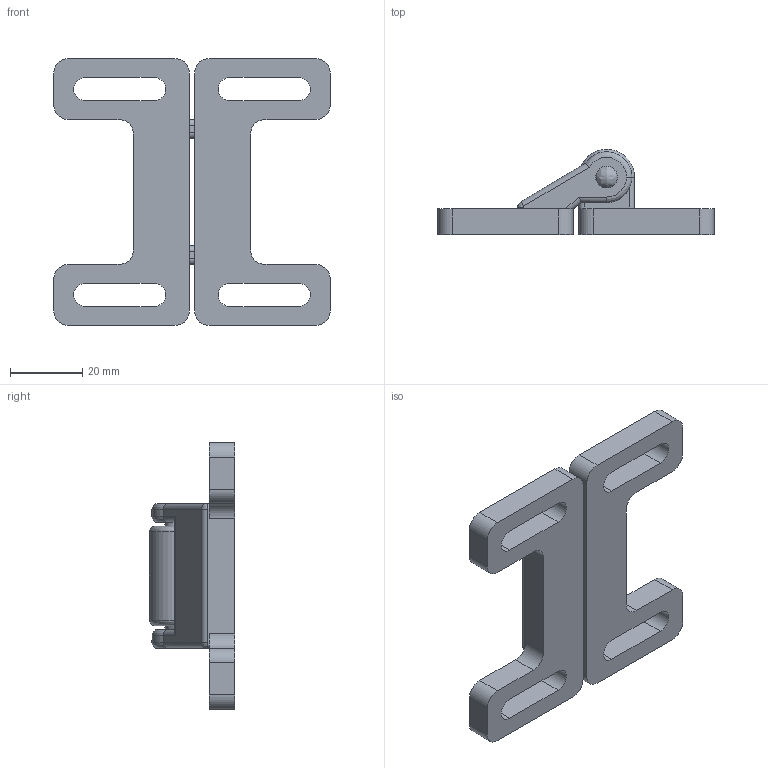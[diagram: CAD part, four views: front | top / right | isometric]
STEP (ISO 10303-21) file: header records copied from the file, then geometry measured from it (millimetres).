
FILE_DESCRIPTION (( 'STEP AP203' ), '1' );
FILE_NAME ('3099.STEP', '2016-04-17T14:33:14', ( '' ), ( '' ), 'SwSTEP 2.0', 'SolidWorks 2014', '' );
FILE_SCHEMA (( 'CONFIG_CONTROL_DESIGN' ));
Length unit declared in the file: millimetre
Products named in the file (3): SNSD.30.50.82. ¦þûþòøýúð ¸ °ð¨øúðüø_00; SNSD.30.50.82. ¦þûþòøýúð ñõ÷ °ð¨øúþò_00; 3099
Assembly tree (2 placements, depth 2):
  3099
    SNSD.30.50.82. ¦þûþòøýúð ¸ °ð¨øúðüø_00
    SNSD.30.50.82. ¦þûþòøýúð ñõ÷ °ð¨øúþò_00
Bounding box: 76.3 x 23.5 x 73.7 mm (x, y, z)
Volume: 33450.4 mm3; surface area: 14329 mm2
Topology: 2 solids, 2 shells, 107 faces, 287 edges, 180 vertices
Faces by surface type: cylinder 52, plane 41, bspline 14
Entity records: 4027 total; most frequent: CARTESIAN_POINT 1101, ORIENTED_EDGE 562, DIRECTION 547, EDGE_CURVE 281, AXIS2_PLACEMENT_3D 193, VERTEX_POINT 180, LINE 161, VECTOR 161
